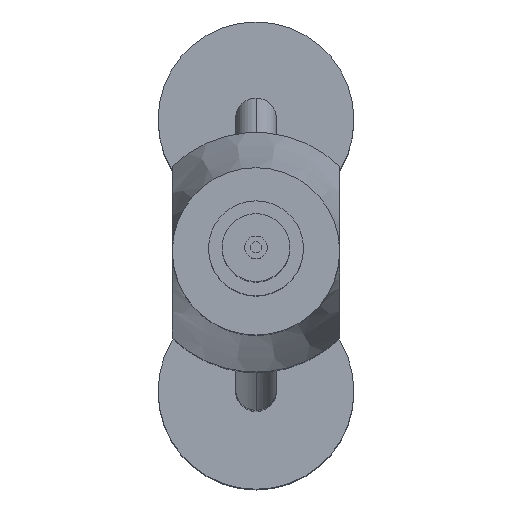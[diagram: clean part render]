
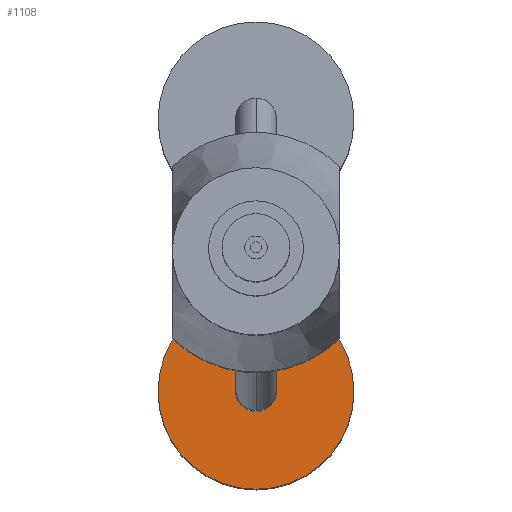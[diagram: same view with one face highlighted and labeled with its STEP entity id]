
A CAD part, top view. The second image highlights one B-rep face of the part: STEP entity #1108.
In plain terms, the highlighted planar face has unit normal (0, 0, 1) as drawn and (-1, 0, 0) by its records, which use the part's own axes.
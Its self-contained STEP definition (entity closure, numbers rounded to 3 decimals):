
#937 = VERTEX_POINT ( 'NONE', #1462 ) ;
#942 = EDGE_CURVE ( 'NONE', #937, #943, #1457, .T. ) ;
#943 = VERTEX_POINT ( 'NONE', #1450 ) ;
#954 = VERTEX_POINT ( 'NONE', #1552 ) ;
#1037 = EDGE_CURVE ( 'NONE', #954, #1038, #1633, .T. ) ;
#1038 = VERTEX_POINT ( 'NONE', #1625 ) ;
#1074 = ORIENTED_EDGE ( 'NONE', *, *, #942, .F. ) ;
#1108 = ADVANCED_FACE ( 'NONE', ( #1859, #1858 ), #1854, .F. ) ;
#1109 = EDGE_LOOP ( 'NONE', ( #1110, #1111 ) ) ;
#1110 = ORIENTED_EDGE ( 'NONE', *, *, #1037, .F. ) ;
#1111 = ORIENTED_EDGE ( 'NONE', *, *, #1113, .F. ) ;
#1113 = EDGE_CURVE ( 'NONE', #1038, #954, #1845, .T. ) ;
#1117 = EDGE_LOOP ( 'NONE', ( #1119, #1074 ) ) ;
#1119 = ORIENTED_EDGE ( 'NONE', *, *, #1121, .F. ) ;
#1121 = EDGE_CURVE ( 'NONE', #943, #937, #1839, .T. ) ;
#1450 = CARTESIAN_POINT ( 'NONE',  ( 105., -3., -0.45 ) ) ;
#1451 = DIRECTION ( 'NONE',  ( 0., 0., -1. ) ) ;
#1452 = DIRECTION ( 'NONE',  ( -1., 0., 0. ) ) ;
#1454 = CARTESIAN_POINT ( 'NONE',  ( 105., -3., 0. ) ) ;
#1455 = AXIS2_PLACEMENT_3D ( 'NONE', #1454, #1452, #1451 ) ;
#1457 = CIRCLE ( 'NONE', #1455, 0.45 ) ;
#1462 = CARTESIAN_POINT ( 'NONE',  ( 105., -3., 0.45 ) ) ;
#1552 = CARTESIAN_POINT ( 'NONE',  ( 105., -3., -2.165 ) ) ;
#1625 = CARTESIAN_POINT ( 'NONE',  ( 105., -3., 2.165 ) ) ;
#1628 = DIRECTION ( 'NONE',  ( 0., 0., -1. ) ) ;
#1630 = DIRECTION ( 'NONE',  ( 1., 0., 0. ) ) ;
#1631 = CARTESIAN_POINT ( 'NONE',  ( 105., -3., 0. ) ) ;
#1632 = AXIS2_PLACEMENT_3D ( 'NONE', #1631, #1630, #1628 ) ;
#1633 = CIRCLE ( 'NONE', #1632, 2.165 ) ;
#1833 = DIRECTION ( 'NONE',  ( 0., 0., -1. ) ) ;
#1835 = DIRECTION ( 'NONE',  ( -1., 0., 0. ) ) ;
#1837 = CARTESIAN_POINT ( 'NONE',  ( 105., -3., 0. ) ) ;
#1838 = AXIS2_PLACEMENT_3D ( 'NONE', #1837, #1835, #1833 ) ;
#1839 = CIRCLE ( 'NONE', #1838, 0.45 ) ;
#1840 = DIRECTION ( 'NONE',  ( 0., 0., -1. ) ) ;
#1841 = DIRECTION ( 'NONE',  ( 1., 0., 0. ) ) ;
#1843 = CARTESIAN_POINT ( 'NONE',  ( 105., -3., 0. ) ) ;
#1844 = AXIS2_PLACEMENT_3D ( 'NONE', #1843, #1841, #1840 ) ;
#1845 = CIRCLE ( 'NONE', #1844, 2.165 ) ;
#1848 = DIRECTION ( 'NONE',  ( 0., 0., -1. ) ) ;
#1849 = DIRECTION ( 'NONE',  ( 1., 0., 0. ) ) ;
#1850 = CARTESIAN_POINT ( 'NONE',  ( 105., -3., 0. ) ) ;
#1852 = AXIS2_PLACEMENT_3D ( 'NONE', #1850, #1849, #1848 ) ;
#1854 = PLANE ( 'NONE',  #1852 ) ;
#1858 = FACE_BOUND ( 'NONE', #1117, .T. ) ;
#1859 = FACE_OUTER_BOUND ( 'NONE', #1109, .T. ) ;
